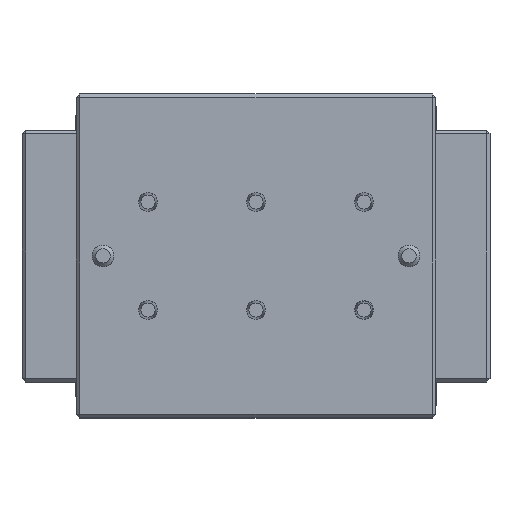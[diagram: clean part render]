
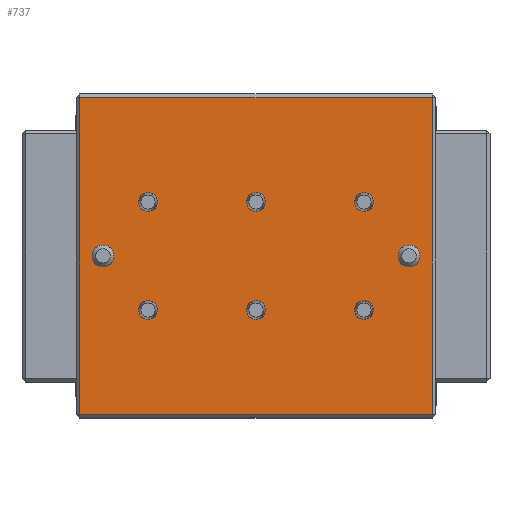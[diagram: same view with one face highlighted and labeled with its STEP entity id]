
A CAD part, top view. The second image highlights one B-rep face of the part: STEP entity #737.
In plain terms, the highlighted planar face has unit normal (0, 0, 1).
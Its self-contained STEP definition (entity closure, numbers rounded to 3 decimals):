
#737=ADVANCED_FACE('',(#2746,#2748,#2750,#2752,#2754,#2756,#2758,#2760,#2762),#2764,
.T.);
#2746=FACE_BOUND('',#2747,.T.);
#2747=EDGE_LOOP('',(#4101,#4102,#4103,#4104));
#2748=FACE_BOUND('',#2749,.T.);
#2749=EDGE_LOOP('',(#4105));
#2750=FACE_BOUND('',#2751,.T.);
#2751=EDGE_LOOP('',(#4106));
#2752=FACE_BOUND('',#2753,.T.);
#2753=EDGE_LOOP('',(#4107));
#2754=FACE_BOUND('',#2755,.T.);
#2755=EDGE_LOOP('',(#4108));
#2756=FACE_BOUND('',#2757,.T.);
#2757=EDGE_LOOP('',(#4109));
#2758=FACE_BOUND('',#2759,.T.);
#2759=EDGE_LOOP('',(#4110));
#2760=FACE_BOUND('',#2761,.T.);
#2761=EDGE_LOOP('',(#4111));
#2762=FACE_BOUND('',#2763,.T.);
#2763=EDGE_LOOP('',(#4112));
#2764=PLANE('',#2765);
#2765=AXIS2_PLACEMENT_3D('',#2766,#2767,#2768);
#2766=CARTESIAN_POINT('',(0.,0.,5.));
#2767=DIRECTION('',(0.,0.,1.));
#2768=DIRECTION('',(-1.,0.,0.));
#4101=ORIENTED_EDGE('',*,*,#4762,.T.);
#4102=ORIENTED_EDGE('',*,*,#4763,.T.);
#4103=ORIENTED_EDGE('',*,*,#4764,.T.);
#4104=ORIENTED_EDGE('',*,*,#4765,.T.);
#4105=ORIENTED_EDGE('',*,*,#4766,.T.);
#4106=ORIENTED_EDGE('',*,*,#4767,.T.);
#4107=ORIENTED_EDGE('',*,*,#4745,.T.);
#4108=ORIENTED_EDGE('',*,*,#4768,.T.);
#4109=ORIENTED_EDGE('',*,*,#4743,.T.);
#4110=ORIENTED_EDGE('',*,*,#4741,.T.);
#4111=ORIENTED_EDGE('',*,*,#4739,.T.);
#4112=ORIENTED_EDGE('',*,*,#4737,.T.);
#4737=EDGE_CURVE('',#5529,#5529,#5530,.F.);
#4739=EDGE_CURVE('',#5533,#5533,#5534,.F.);
#4741=EDGE_CURVE('',#5537,#5537,#5538,.F.);
#4743=EDGE_CURVE('',#5541,#5541,#5542,.F.);
#4745=EDGE_CURVE('',#5545,#5545,#5546,.F.);
#4762=EDGE_CURVE('',#5579,#5580,#5581,.T.);
#4763=EDGE_CURVE('',#5580,#5582,#5583,.T.);
#4764=EDGE_CURVE('',#5582,#5584,#5585,.T.);
#4765=EDGE_CURVE('',#5584,#5579,#5586,.T.);
#4766=EDGE_CURVE('',#5587,#5587,#5588,.F.);
#4767=EDGE_CURVE('',#5589,#5589,#5590,.F.);
#4768=EDGE_CURVE('',#5591,#5591,#5592,.F.);
#5529=VERTEX_POINT('',#7334);
#5530=CIRCLE('',#7335,2.6);
#5533=VERTEX_POINT('',#7344);
#5534=CIRCLE('',#7345,2.6);
#5537=VERTEX_POINT('',#7354);
#5538=CIRCLE('',#7355,2.6);
#5541=VERTEX_POINT('',#7364);
#5542=CIRCLE('',#7365,2.6);
#5545=VERTEX_POINT('',#7374);
#5546=CIRCLE('',#7375,2.6);
#5579=VERTEX_POINT('',#7459);
#5580=VERTEX_POINT('',#7460);
#5581=LINE('',#7461,#7462);
#5582=VERTEX_POINT('',#7464);
#5583=LINE('',#7465,#7466);
#5584=VERTEX_POINT('',#7468);
#5585=LINE('',#7469,#7470);
#5586=LINE('',#7472,#7473);
#5587=VERTEX_POINT('',#7475);
#5588=CIRCLE('',#7476,3.05);
#5589=VERTEX_POINT('',#7480);
#5590=CIRCLE('',#7481,3.05);
#5591=VERTEX_POINT('',#7485);
#5592=CIRCLE('',#7486,2.6);
#7334=CARTESIAN_POINT('',(27.4,-15.,5.));
#7335=AXIS2_PLACEMENT_3D('',#7336,#7337,#7338);
#7336=CARTESIAN_POINT('',(30.,-15.,5.));
#7337=DIRECTION('',(0.,0.,1.));
#7338=DIRECTION('',(-1.,0.,0.));
#7344=CARTESIAN_POINT('',(-2.6,-15.,5.));
#7345=AXIS2_PLACEMENT_3D('',#7346,#7347,#7348);
#7346=CARTESIAN_POINT('',(0.,-15.,5.));
#7347=DIRECTION('',(0.,0.,1.));
#7348=DIRECTION('',(-1.,0.,0.));
#7354=CARTESIAN_POINT('',(-2.6,15.,5.));
#7355=AXIS2_PLACEMENT_3D('',#7356,#7357,#7358);
#7356=CARTESIAN_POINT('',(0.,15.,5.));
#7357=DIRECTION('',(0.,0.,1.));
#7358=DIRECTION('',(-1.,0.,0.));
#7364=CARTESIAN_POINT('',(-32.6,-15.,5.));
#7365=AXIS2_PLACEMENT_3D('',#7366,#7367,#7368);
#7366=CARTESIAN_POINT('',(-30.,-15.,5.));
#7367=DIRECTION('',(0.,0.,1.));
#7368=DIRECTION('',(-1.,0.,0.));
#7374=CARTESIAN_POINT('',(-32.6,15.,5.));
#7375=AXIS2_PLACEMENT_3D('',#7376,#7377,#7378);
#7376=CARTESIAN_POINT('',(-30.,15.,5.));
#7377=DIRECTION('',(0.,0.,1.));
#7378=DIRECTION('',(-1.,0.,0.));
#7459=CARTESIAN_POINT('',(-49.,44.,5.));
#7460=CARTESIAN_POINT('',(-49.,-44.,5.));
#7461=CARTESIAN_POINT('',(-49.,44.,5.));
#7462=VECTOR('',#7463,1.);
#7463=DIRECTION('',(0.,-1.,0.));
#7464=CARTESIAN_POINT('',(49.,-44.,5.));
#7465=CARTESIAN_POINT('',(-49.,-44.,5.));
#7466=VECTOR('',#7467,1.);
#7467=DIRECTION('',(1.,0.,0.));
#7468=CARTESIAN_POINT('',(49.,44.,5.));
#7469=CARTESIAN_POINT('',(49.,-44.,5.));
#7470=VECTOR('',#7471,1.);
#7471=DIRECTION('',(0.,1.,0.));
#7472=CARTESIAN_POINT('',(49.,44.,5.));
#7473=VECTOR('',#7474,1.);
#7474=DIRECTION('',(-1.,0.,0.));
#7475=CARTESIAN_POINT('',(39.45,0.,5.));
#7476=AXIS2_PLACEMENT_3D('',#7477,#7478,#7479);
#7477=CARTESIAN_POINT('',(42.5,0.,5.));
#7478=DIRECTION('',(0.,0.,1.));
#7479=DIRECTION('',(-1.,0.,0.));
#7480=CARTESIAN_POINT('',(-45.55,0.,5.));
#7481=AXIS2_PLACEMENT_3D('',#7482,#7483,#7484);
#7482=CARTESIAN_POINT('',(-42.5,0.,5.));
#7483=DIRECTION('',(0.,0.,1.));
#7484=DIRECTION('',(-1.,0.,0.));
#7485=CARTESIAN_POINT('',(27.4,15.,5.));
#7486=AXIS2_PLACEMENT_3D('',#7487,#7488,#7489);
#7487=CARTESIAN_POINT('',(30.,15.,5.));
#7488=DIRECTION('',(0.,0.,1.));
#7489=DIRECTION('',(-1.,0.,0.));
